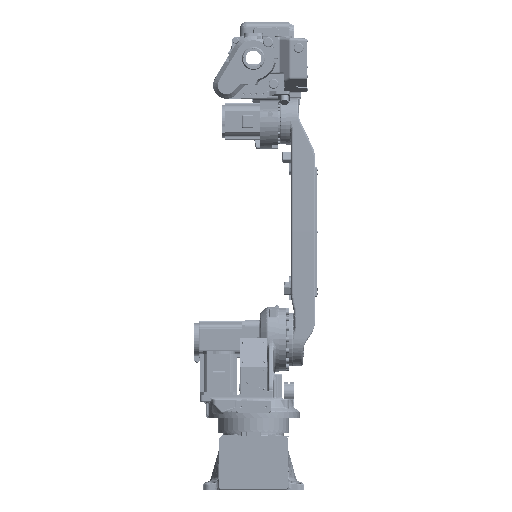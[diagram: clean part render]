
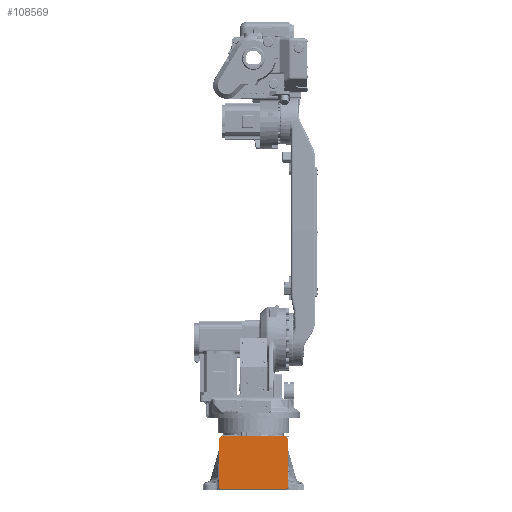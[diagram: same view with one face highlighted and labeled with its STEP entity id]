
A CAD part, left-side view. The second image highlights one B-rep face of the part: STEP entity #108569.
In plain terms, the highlighted planar face has unit normal (-1, 0, 0).
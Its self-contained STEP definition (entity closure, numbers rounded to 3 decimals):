
#6538=LINE('',#158081,#14209);
#6698=LINE('',#166975,#14369);
#6701=LINE('',#166982,#14372);
#6758=LINE('',#167283,#14429);
#14209=VECTOR('',#126861,10.);
#14369=VECTOR('',#127799,10.);
#14372=VECTOR('',#127808,10.);
#14429=VECTOR('',#128053,10.);
#22635=FACE_OUTER_BOUND('',#29161,.T.);
#29161=EDGE_LOOP('',(#69823,#69824,#69825,#69826,#69827,#69828,#69829,#69830));
#35889=CIRCLE('',#114993,5.);
#35891=CIRCLE('',#114996,5.);
#36135=CIRCLE('',#115371,10.);
#36136=CIRCLE('',#115374,10.);
#41599=VERTEX_POINT('',#158079);
#41600=VERTEX_POINT('',#158080);
#41616=VERTEX_POINT('',#158153);
#41618=VERTEX_POINT('',#158159);
#42106=VERTEX_POINT('',#166968);
#42107=VERTEX_POINT('',#166969);
#42108=VERTEX_POINT('',#166974);
#42109=VERTEX_POINT('',#166978);
#51667=EDGE_CURVE('',#41599,#41600,#6538,.T.);
#51686=EDGE_CURVE('',#41616,#41599,#35889,.T.);
#51689=EDGE_CURVE('',#41600,#41618,#35891,.T.);
#52473=EDGE_CURVE('',#42106,#42107,#36135,.T.);
#52476=EDGE_CURVE('',#42108,#42106,#6698,.T.);
#52478=EDGE_CURVE('',#42109,#42108,#36136,.T.);
#52480=EDGE_CURVE('',#41618,#42109,#6701,.T.);
#52588=EDGE_CURVE('',#42107,#41616,#6758,.T.);
#69823=ORIENTED_EDGE('',*,*,#52588,.F.);
#69824=ORIENTED_EDGE('',*,*,#52473,.F.);
#69825=ORIENTED_EDGE('',*,*,#52476,.F.);
#69826=ORIENTED_EDGE('',*,*,#52478,.F.);
#69827=ORIENTED_EDGE('',*,*,#52480,.F.);
#69828=ORIENTED_EDGE('',*,*,#51689,.F.);
#69829=ORIENTED_EDGE('',*,*,#51667,.F.);
#69830=ORIENTED_EDGE('',*,*,#51686,.F.);
#99681=PLANE('',#115560);
#108569=ADVANCED_FACE('',(#22635),#99681,.F.);
#114993=AXIS2_PLACEMENT_3D('',#158154,#126890,#126891);
#114996=AXIS2_PLACEMENT_3D('',#158160,#126897,#126898);
#115371=AXIS2_PLACEMENT_3D('',#166970,#127793,#127794);
#115374=AXIS2_PLACEMENT_3D('',#166979,#127803,#127804);
#115560=AXIS2_PLACEMENT_3D('',#167681,#128313,#128314);
#126861=DIRECTION('',(0.,1.,0.));
#126890=DIRECTION('center_axis',(1.,0.,0.));
#126891=DIRECTION('ref_axis',(0.,-0.707,
-0.707));
#126897=DIRECTION('center_axis',(1.,0.,0.));
#126898=DIRECTION('ref_axis',(0.,0.707,-0.707));
#127793=DIRECTION('center_axis',(1.,0.,0.));
#127794=DIRECTION('ref_axis',(0.,-0.707,0.707));
#127799=DIRECTION('',(0.,-1.,0.));
#127803=DIRECTION('center_axis',(1.,0.,0.));
#127804=DIRECTION('ref_axis',(0.,0.707,0.707));
#127808=DIRECTION('',(0.,0.,1.));
#128053=DIRECTION('',(0.,0.,-1.));
#128313=DIRECTION('center_axis',(1.,0.,0.));
#128314=DIRECTION('ref_axis',(0.,0.,
1.));
#158079=CARTESIAN_POINT('',(-205.,-114.,4.));
#158080=CARTESIAN_POINT('',(-205.,114.,4.));
#158081=CARTESIAN_POINT('',(-205.,56.619,4.));
#158153=CARTESIAN_POINT('',(-205.,-119.,9.));
#158154=CARTESIAN_POINT('Origin',(-205.,-114.,9.));
#158159=CARTESIAN_POINT('',(-205.,119.,9.));
#158160=CARTESIAN_POINT('Origin',(-205.,114.,9.));
#166968=CARTESIAN_POINT('',(-205.,-109.,187.));
#166969=CARTESIAN_POINT('',(-205.,-119.,177.));
#166970=CARTESIAN_POINT('Origin',(-205.,-109.,177.));
#166974=CARTESIAN_POINT('',(-205.,109.,187.));
#166975=CARTESIAN_POINT('',(-205.,-2.881,187.));
#166978=CARTESIAN_POINT('',(-205.,119.,177.));
#166979=CARTESIAN_POINT('Origin',(-205.,109.,177.));
#166982=CARTESIAN_POINT('',(-205.,119.,141.731));
#167283=CARTESIAN_POINT('',(-205.,-119.,141.731));
#167681=CARTESIAN_POINT('Origin',(-205.,0.593,97.555));
